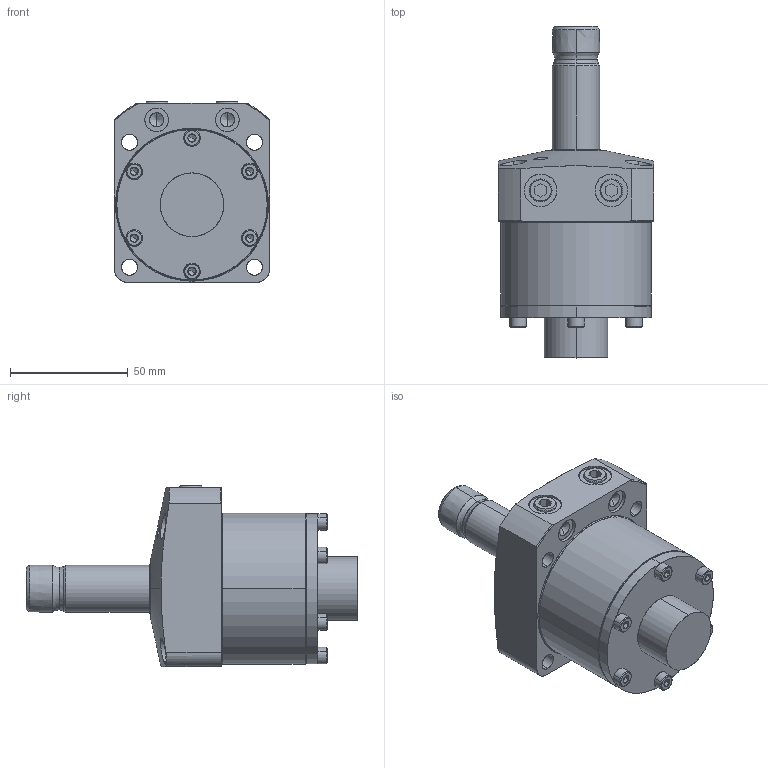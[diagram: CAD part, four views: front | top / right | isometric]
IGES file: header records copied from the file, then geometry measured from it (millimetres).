
Start section: SolidWorks IGES file using analytic representation for surfaces
Global section: file name: L:\電子カタログ-3D_IGES\WHA0500-2GL-F.igs; native system: SolidWorks 2009; preprocessor: SolidWorks 2009; author: D211; date: 100416.113202; units: millimetre
Bounding box: 66 x 140.8 x 76.8 mm (x, y, z)
Surface area: 46560.2 mm2 (no closed solid volume)
Topology: 0 solids, 0 shells, 368 faces, 5439 edges, 5421 vertices
Faces by surface type: revolution 215, bspline 153
